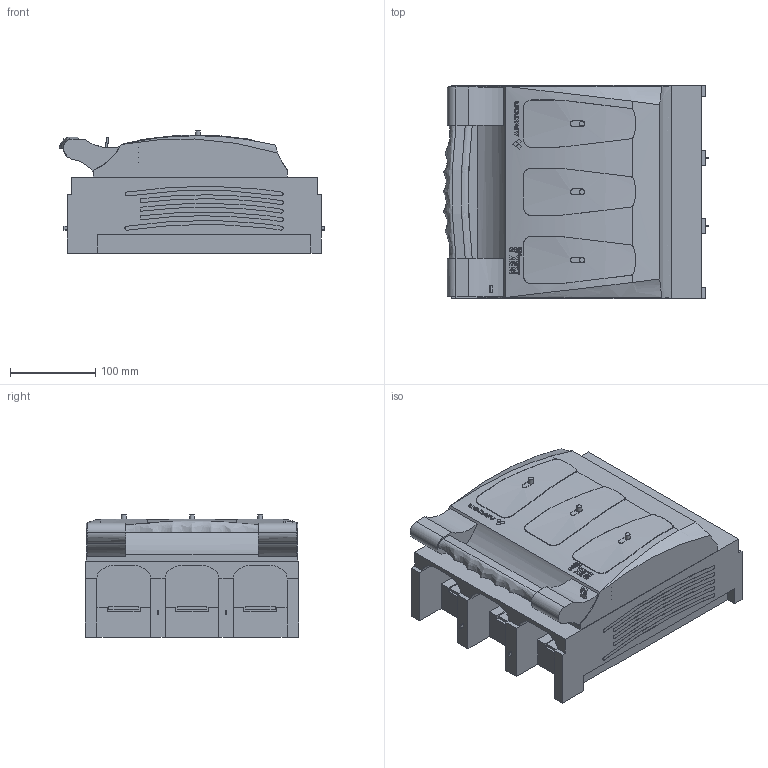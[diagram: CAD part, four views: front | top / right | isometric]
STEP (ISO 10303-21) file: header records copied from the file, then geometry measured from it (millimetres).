
FILE_DESCRIPTION(/* description */ (''),/* implementation_level */ '2;1');
FILE_NAME(/* name */ 'RBK 3 pro-M - 63-811761-021.stp',/* time_stamp */ '2019-02-21T10:18:50+01:00',/* author */ (''),/* organization */ (''),/* preprocessor_version */ 'ST-DEVELOPER v16',/* originating_system */ 'SIEMENS PLM Software NX 10.0',/* authorisation */ '');
FILE_SCHEMA (('AUTOMOTIVE_DESIGN { 1 0 10303 214 3 1 1 1 }'));
Products named in the file (1): 710_13BC62B99lbx
Bounding box: 311.67 x 250 x 143.6 mm (x, y, z)
Volume: 7325125.6 mm3; surface area: 385752.8 mm2
Topology: 1 solids, 6 shells, 1206 faces, 3419 edges, 2285 vertices
Faces by surface type: extrusion 663, plane 316, cylinder 155, bspline 50, cone 18, sphere 4
Full cylindrical faces by diameter (mm): 11.105 x4, 13 x6
Entity records: 51180 total; most frequent: CARTESIAN_POINT 20963, ORIENTED_EDGE 6802, DIRECTION 5031, EDGE_CURVE 3401, VERTEX_POINT 2285, VECTOR 2203, B_SPLINE_CURVE_WITH_KNOTS 1598, LINE 1540
